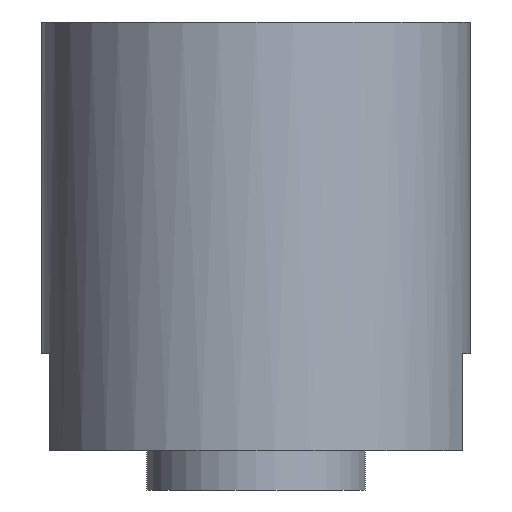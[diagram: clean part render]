
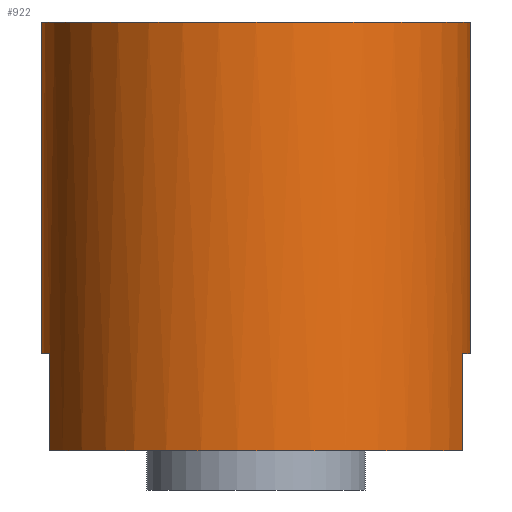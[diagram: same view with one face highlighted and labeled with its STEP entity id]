
A CAD part, front view. The second image highlights one B-rep face of the part: STEP entity #922.
In plain terms, the highlighted cylindrical face has radius 5.5 mm (diameter 11 mm), a full revolution.
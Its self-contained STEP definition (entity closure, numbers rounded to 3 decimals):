
#530 = VERTEX_POINT('',#531);
#531 = CARTESIAN_POINT('',(5.292,-1.5,3.5));
#537 = EDGE_CURVE('',#530,#538,#540,.T.);
#538 = VERTEX_POINT('',#539);
#539 = CARTESIAN_POINT('',(5.5,0.,3.5));
#540 = CIRCLE('',#541,5.5);
#541 = AXIS2_PLACEMENT_3D('',#542,#543,#544);
#542 = CARTESIAN_POINT('',(0.,0.,3.5));
#543 = DIRECTION('',(0.,0.,1.));
#544 = DIRECTION('',(1.,0.,-0.));
#546 = EDGE_CURVE('',#538,#547,#549,.T.);
#547 = VERTEX_POINT('',#548);
#548 = CARTESIAN_POINT('',(5.292,1.5,3.5));
#549 = CIRCLE('',#550,5.5);
#550 = AXIS2_PLACEMENT_3D('',#551,#552,#553);
#551 = CARTESIAN_POINT('',(0.,0.,3.5));
#552 = DIRECTION('',(0.,0.,1.));
#553 = DIRECTION('',(1.,0.,-0.));
#571 = VERTEX_POINT('',#572);
#572 = CARTESIAN_POINT('',(5.292,-1.5,1.));
#578 = EDGE_CURVE('',#571,#530,#579,.T.);
#579 = LINE('',#580,#581);
#580 = CARTESIAN_POINT('',(5.292,-1.5,12.));
#581 = VECTOR('',#582,1.);
#582 = DIRECTION('',(0.,0.,1.));
#594 = EDGE_CURVE('',#595,#571,#597,.T.);
#595 = VERTEX_POINT('',#596);
#596 = CARTESIAN_POINT('',(-5.292,-1.5,1.));
#597 = CIRCLE('',#598,5.5);
#598 = AXIS2_PLACEMENT_3D('',#599,#600,#601);
#599 = CARTESIAN_POINT('',(0.,0.,1.));
#600 = DIRECTION('',(0.,0.,1.));
#601 = DIRECTION('',(1.,0.,0.));
#622 = VERTEX_POINT('',#623);
#623 = CARTESIAN_POINT('',(-5.292,-1.5,3.5));
#629 = EDGE_CURVE('',#595,#622,#630,.T.);
#630 = LINE('',#631,#632);
#631 = CARTESIAN_POINT('',(-5.292,-1.5,12.));
#632 = VECTOR('',#633,1.);
#633 = DIRECTION('',(0.,0.,1.));
#646 = VERTEX_POINT('',#647);
#647 = CARTESIAN_POINT('',(-5.292,1.5,3.5));
#653 = EDGE_CURVE('',#646,#622,#654,.T.);
#654 = CIRCLE('',#655,5.5);
#655 = AXIS2_PLACEMENT_3D('',#656,#657,#658);
#656 = CARTESIAN_POINT('',(0.,0.,3.5));
#657 = DIRECTION('',(0.,0.,1.));
#658 = DIRECTION('',(1.,0.,-0.));
#669 = VERTEX_POINT('',#670);
#670 = CARTESIAN_POINT('',(-5.292,1.5,1.));
#676 = EDGE_CURVE('',#669,#646,#677,.T.);
#677 = LINE('',#678,#679);
#678 = CARTESIAN_POINT('',(-5.292,1.5,12.));
#679 = VECTOR('',#680,1.);
#680 = DIRECTION('',(0.,0.,1.));
#693 = VERTEX_POINT('',#694);
#694 = CARTESIAN_POINT('',(5.292,1.5,1.));
#700 = EDGE_CURVE('',#693,#669,#701,.T.);
#701 = CIRCLE('',#702,5.5);
#702 = AXIS2_PLACEMENT_3D('',#703,#704,#705);
#703 = CARTESIAN_POINT('',(0.,0.,1.));
#704 = DIRECTION('',(0.,0.,1.));
#705 = DIRECTION('',(1.,0.,0.));
#720 = EDGE_CURVE('',#693,#547,#721,.T.);
#721 = LINE('',#722,#723);
#722 = CARTESIAN_POINT('',(5.292,1.5,12.));
#723 = VECTOR('',#724,1.);
#724 = DIRECTION('',(0.,0.,1.));
#922 = ADVANCED_FACE('',(#923),#950,.T.);
#923 = FACE_BOUND('',#924,.T.);
#924 = EDGE_LOOP('',(#925,#934,#940,#941,#942,#943,#944,#945,#946,#947,
    #948,#949));
#925 = ORIENTED_EDGE('',*,*,#926,.F.);
#926 = EDGE_CURVE('',#927,#927,#929,.T.);
#927 = VERTEX_POINT('',#928);
#928 = CARTESIAN_POINT('',(5.5,0.,12.));
#929 = CIRCLE('',#930,5.5);
#930 = AXIS2_PLACEMENT_3D('',#931,#932,#933);
#931 = CARTESIAN_POINT('',(0.,0.,12.));
#932 = DIRECTION('',(0.,0.,1.));
#933 = DIRECTION('',(1.,0.,0.));
#934 = ORIENTED_EDGE('',*,*,#935,.T.);
#935 = EDGE_CURVE('',#927,#538,#936,.T.);
#936 = LINE('',#937,#938);
#937 = CARTESIAN_POINT('',(5.5,0.,12.));
#938 = VECTOR('',#939,1.);
#939 = DIRECTION('',(-0.,-0.,-1.));
#940 = ORIENTED_EDGE('',*,*,#546,.T.);
#941 = ORIENTED_EDGE('',*,*,#720,.F.);
#942 = ORIENTED_EDGE('',*,*,#700,.T.);
#943 = ORIENTED_EDGE('',*,*,#676,.T.);
#944 = ORIENTED_EDGE('',*,*,#653,.T.);
#945 = ORIENTED_EDGE('',*,*,#629,.F.);
#946 = ORIENTED_EDGE('',*,*,#594,.T.);
#947 = ORIENTED_EDGE('',*,*,#578,.T.);
#948 = ORIENTED_EDGE('',*,*,#537,.T.);
#949 = ORIENTED_EDGE('',*,*,#935,.F.);
#950 = CYLINDRICAL_SURFACE('',#951,5.5);
#951 = AXIS2_PLACEMENT_3D('',#952,#953,#954);
#952 = CARTESIAN_POINT('',(0.,0.,12.));
#953 = DIRECTION('',(0.,0.,1.));
#954 = DIRECTION('',(1.,0.,0.));
